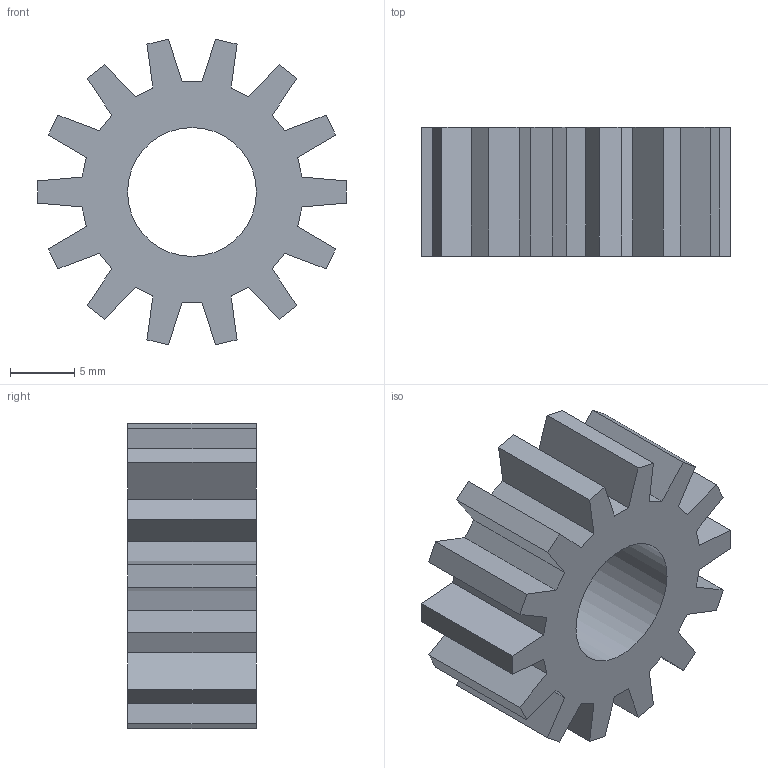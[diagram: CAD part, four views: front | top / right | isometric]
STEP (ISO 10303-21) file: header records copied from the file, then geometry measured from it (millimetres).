
FILE_DESCRIPTION(('Open CASCADE Model'),'2;1');
FILE_NAME('Open CASCADE Shape Model','2026-10-18T22:58:21',('Author'),( 'Open CASCADE'),'Open CASCADE STEP processor 7.9','Open CASCADE 7.9' ,'Unknown');
FILE_SCHEMA(('AUTOMOTIVE_DESIGN { 1 0 10303 214 1 1 1 1 }'));
Length unit declared in the file: millimetre
Products named in the file (1): Open CASCADE STEP translator 7.9 19
Bounding box: 23.94 x 10 x 23.72 mm (x, y, z)
Volume: 2496.9 mm3; surface area: 2232.9 mm2
Topology: 1 solids, 1 shells, 59 faces, 171 edges, 114 vertices
Faces by surface type: plane 58, cylinder 1
Full cylindrical faces by diameter (mm): 10 x1
Entity records: 4144 total; most frequent: CARTESIAN_POINT 687, DIRECTION 635, LINE 509, VECTOR 509, ORIENTED_EDGE 342, PCURVE 342, DEFINITIONAL_REPRESENTATION 342, EDGE_CURVE 171
